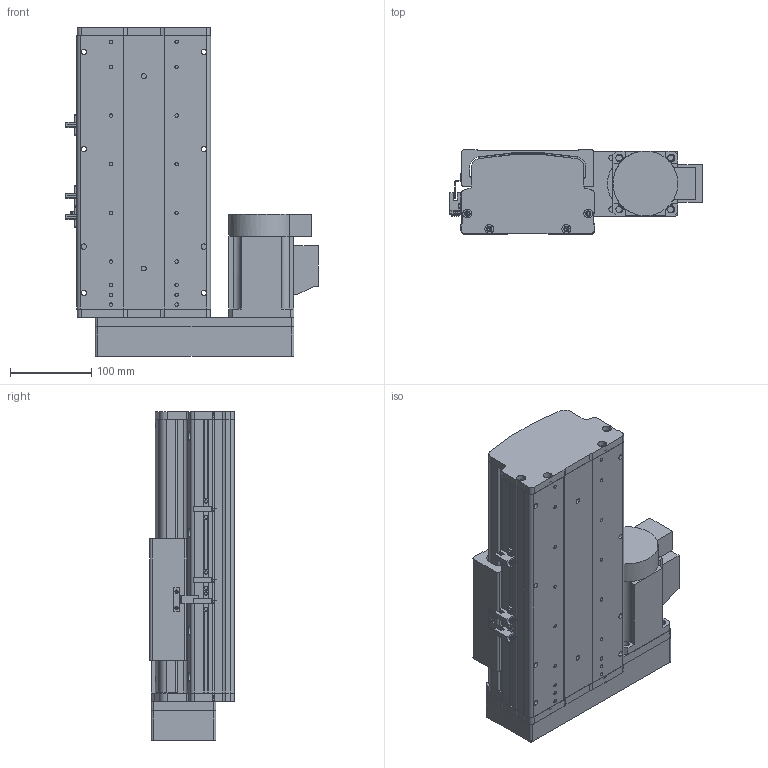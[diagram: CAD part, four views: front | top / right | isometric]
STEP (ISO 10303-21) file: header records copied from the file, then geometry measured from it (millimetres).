
FILE_DESCRIPTION (( 'STEP AP214' ), '1' );
FILE_NAME ('KSD165S-S100-ML-CM .STEP', '2017-10-17T08:40:18', ( '微软用户' ), ( '微软中国' ), 'SwSTEP 2.0', 'SolidWorks 2014', '' );
FILE_SCHEMA (( 'AUTOMOTIVE_DESIGN' ));
Length unit declared in the file: millimetre
Products named in the file (16): U倰嫖萇假蚾璃; KSD165耀郪-綴傷啣1; KSD165S-S100-ML-CM ; 覜茼え68遵圉猾敕; U倰嫖萇EEㄜSX672; HTPA26S5M250-A-H8丝杆用(内径14）; 拸秶雄ん750W侜督萇儂; KSD165模组-丝杆上下左右折前端板; HTPA26S5M250-A-H8 750W萇儂蚚; 165宽模组马达安装板连板左右折丝杆; 165宽模组保护罩左右折; KSD165模组-丝杆滑动座-最新版; KSD165模组-防尘盖1-100行程-最新版; KSD165模组底板-100行程-最新; KSD165耀郪-佪裝-滅袉菜-3 -; KSD165耀郪-佪裝-滅袉菜-1
Assembly tree (19 placements, depth 2):
  KSD165S-S100-ML-CM 
    KSD165耀郪-綴傷啣1
    U倰嫖萇假蚾璃  x3
    KSD165耀郪-佪裝-滅袉菜-1
    KSD165耀郪-佪裝-滅袉菜-3 -
    KSD165模组底板-100行程-最新
    KSD165模组-防尘盖1-100行程-最新版
    KSD165模组-丝杆滑动座-最新版
    165宽模组保护罩左右折
    165宽模组马达安装板连板左右折丝杆
    HTPA26S5M250-A-H8 750W萇儂蚚
    KSD165模组-丝杆上下左右折前端板
    拸秶雄ん750W侜督萇儂
    HTPA26S5M250-A-H8丝杆用(内径14）
    U倰嫖萇EEㄜSX672  x3
    覜茼え68遵圉猾敕
Bounding box: 311.2 x 104 x 405.5 mm (x, y, z)
Volume: 3805253.1 mm3; surface area: 873814.9 mm2
Topology: 20 solids, 20 shells, 1733 faces, 4904 edges, 3203 vertices
Faces by surface type: cylinder 1099, plane 533, cone 101
Entity records: 56051 total; most frequent: CARTESIAN_POINT 11731, DIRECTION 9107, ORIENTED_EDGE 8496, EDGE_CURVE 4248, AXIS2_PLACEMENT_3D 3555, VERTEX_POINT 2795, CIRCLE 2020, VECTOR 1997
